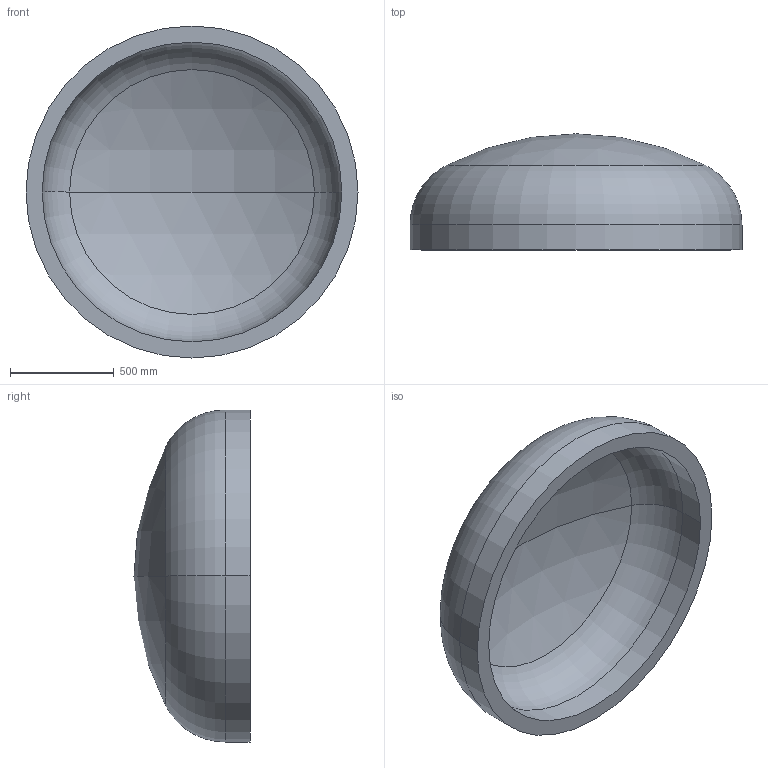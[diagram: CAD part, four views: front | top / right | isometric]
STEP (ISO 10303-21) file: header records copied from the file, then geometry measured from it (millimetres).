
FILE_DESCRIPTION (( 'STEP AP203' ), '1' );
FILE_NAME ('DIN 28013 Korbbogenform_-_Boden DIN 28013 - 1600 x 120 - I - s=78.step', '2016-07-01T11:25:13', ( '' ), ( '' ), 'SwSTEP 2.0', 'SolidWorks 2013', '' );
FILE_SCHEMA (( 'CONFIG_CONTROL_DESIGN' ));
Length unit declared in the file: millimetre
Products named in the file (1): DIN 28013 Korbbogenform_-_Boden DIN 28013 - 1600 x 120 - I - s=78
Bounding box: 1600 x 559.47 x 1600 mm (x, y, z)
Volume: 248520092.8 mm3; surface area: 6758008.1 mm2
Topology: 1 solids, 1 shells, 13 faces, 24 edges, 14 vertices
Faces by surface type: torus 4, cylinder 4, sphere 4, plane 1
Entity records: 407 total; most frequent: DIRECTION 72, CARTESIAN_POINT 52, ORIENTED_EDGE 48, AXIS2_PLACEMENT_3D 34, EDGE_CURVE 24, CIRCLE 20, EDGE_LOOP 14, VERTEX_POINT 14
